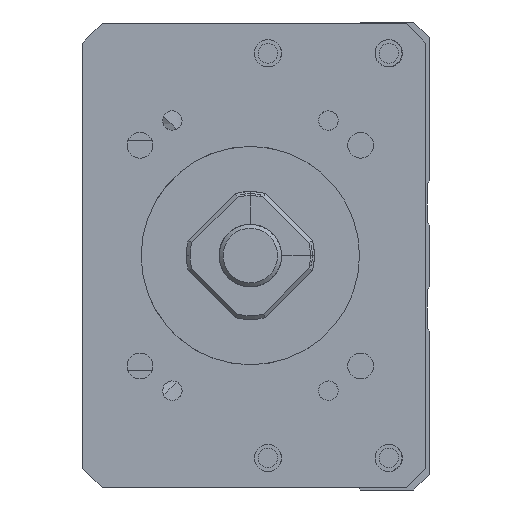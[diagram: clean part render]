
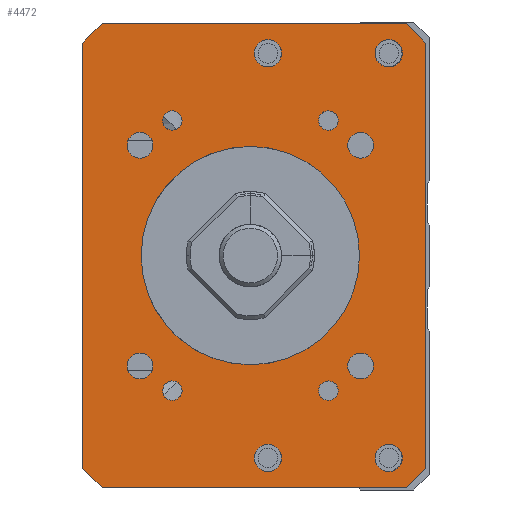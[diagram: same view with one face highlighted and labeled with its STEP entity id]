
A CAD part, left-side view. The second image highlights one B-rep face of the part: STEP entity #4472.
In plain terms, the highlighted planar face has unit normal (-1, 0, 0).
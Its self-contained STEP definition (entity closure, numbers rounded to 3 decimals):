
#3380=FACE_BOUND('',#5912,.T.);
#3381=FACE_BOUND('',#5913,.T.);
#3382=FACE_BOUND('',#5914,.T.);
#3383=FACE_BOUND('',#5915,.T.);
#3384=FACE_BOUND('',#5916,.T.);
#3385=FACE_BOUND('',#5917,.T.);
#3386=FACE_BOUND('',#5918,.T.);
#3387=FACE_BOUND('',#5919,.T.);
#3388=FACE_BOUND('',#5920,.T.);
#3389=FACE_BOUND('',#5921,.T.);
#3390=FACE_BOUND('',#5922,.T.);
#3391=FACE_BOUND('',#5923,.T.);
#3392=FACE_BOUND('',#5924,.T.);
#3393=FACE_BOUND('',#5925,.T.);
#3782=CIRCLE('',#13442,14.);
#3791=CIRCLE('',#13453,1.65);
#3792=CIRCLE('',#13454,1.65);
#3793=CIRCLE('',#13455,1.65);
#3794=CIRCLE('',#13456,1.65);
#3795=CIRCLE('',#13457,1.25);
#3796=CIRCLE('',#13458,1.75);
#3797=CIRCLE('',#13459,1.25);
#3798=CIRCLE('',#13460,1.75);
#3799=CIRCLE('',#13461,1.25);
#3800=CIRCLE('',#13462,1.75);
#3801=CIRCLE('',#13463,1.75);
#3802=CIRCLE('',#13464,1.25);
#4472=ADVANCED_FACE('',(#3380,#3381,#3382,#3383,#3384,#3385,#3386,#3387,
#3388,#3389,#3390,#3391,#3392,#3393),#5007,.F.);
#5007=PLANE('',#13465);
#5912=EDGE_LOOP('',(#7231));
#5913=EDGE_LOOP('',(#7232));
#5914=EDGE_LOOP('',(#7233));
#5915=EDGE_LOOP('',(#7234));
#5916=EDGE_LOOP('',(#7235));
#5917=EDGE_LOOP('',(#7236));
#5918=EDGE_LOOP('',(#7237));
#5919=EDGE_LOOP('',(#7238));
#5920=EDGE_LOOP('',(#7239));
#5921=EDGE_LOOP('',(#7240,#7241,#7242,#7243,#7244,#7245,#7246,#7247));
#5922=EDGE_LOOP('',(#7248));
#5923=EDGE_LOOP('',(#7249));
#5924=EDGE_LOOP('',(#7250));
#5925=EDGE_LOOP('',(#7251));
#7231=ORIENTED_EDGE('',*,*,#10584,.F.);
#7232=ORIENTED_EDGE('',*,*,#10585,.F.);
#7233=ORIENTED_EDGE('',*,*,#10586,.F.);
#7234=ORIENTED_EDGE('',*,*,#10587,.F.);
#7235=ORIENTED_EDGE('',*,*,#10588,.F.);
#7236=ORIENTED_EDGE('',*,*,#10589,.T.);
#7237=ORIENTED_EDGE('',*,*,#10590,.F.);
#7238=ORIENTED_EDGE('',*,*,#10591,.F.);
#7239=ORIENTED_EDGE('',*,*,#10592,.F.);
#7240=ORIENTED_EDGE('',*,*,#10581,.T.);
#7241=ORIENTED_EDGE('',*,*,#10593,.T.);
#7242=ORIENTED_EDGE('',*,*,#10594,.F.);
#7243=ORIENTED_EDGE('',*,*,#10595,.T.);
#7244=ORIENTED_EDGE('',*,*,#10596,.F.);
#7245=ORIENTED_EDGE('',*,*,#10597,.T.);
#7246=ORIENTED_EDGE('',*,*,#10598,.T.);
#7247=ORIENTED_EDGE('',*,*,#10599,.T.);
#7248=ORIENTED_EDGE('',*,*,#10600,.F.);
#7249=ORIENTED_EDGE('',*,*,#10601,.F.);
#7250=ORIENTED_EDGE('',*,*,#10602,.F.);
#7251=ORIENTED_EDGE('',*,*,#10561,.F.);
#9533=VERTEX_POINT('',#17678);
#9553=VERTEX_POINT('',#17738);
#9554=VERTEX_POINT('',#17740);
#9556=VERTEX_POINT('',#17746);
#9557=VERTEX_POINT('',#17748);
#9558=VERTEX_POINT('',#17750);
#9559=VERTEX_POINT('',#17752);
#9560=VERTEX_POINT('',#17754);
#9561=VERTEX_POINT('',#17756);
#9562=VERTEX_POINT('',#17758);
#9563=VERTEX_POINT('',#17760);
#9564=VERTEX_POINT('',#17762);
#9565=VERTEX_POINT('',#17764);
#9566=VERTEX_POINT('',#17766);
#9567=VERTEX_POINT('',#17768);
#9568=VERTEX_POINT('',#17770);
#9569=VERTEX_POINT('',#17772);
#9570=VERTEX_POINT('',#17774);
#9571=VERTEX_POINT('',#17777);
#9572=VERTEX_POINT('',#17779);
#9573=VERTEX_POINT('',#17781);
#10561=EDGE_CURVE('',#9533,#9533,#3782,.T.);
#10581=EDGE_CURVE('',#9554,#9553,#11761,.T.);
#10584=EDGE_CURVE('',#9556,#9556,#3791,.T.);
#10585=EDGE_CURVE('',#9557,#9557,#3792,.T.);
#10586=EDGE_CURVE('',#9558,#9558,#3793,.T.);
#10587=EDGE_CURVE('',#9559,#9559,#3794,.T.);
#10588=EDGE_CURVE('',#9560,#9560,#3795,.T.);
#10589=EDGE_CURVE('',#9561,#9561,#3796,.T.);
#10590=EDGE_CURVE('',#9562,#9562,#3797,.T.);
#10591=EDGE_CURVE('',#9563,#9563,#3798,.T.);
#10592=EDGE_CURVE('',#9564,#9564,#3799,.T.);
#10593=EDGE_CURVE('',#9553,#9565,#11763,.T.);
#10594=EDGE_CURVE('',#9566,#9565,#11764,.T.);
#10595=EDGE_CURVE('',#9566,#9567,#11765,.T.);
#10596=EDGE_CURVE('',#9568,#9567,#11766,.T.);
#10597=EDGE_CURVE('',#9568,#9569,#11767,.T.);
#10598=EDGE_CURVE('',#9569,#9570,#11768,.T.);
#10599=EDGE_CURVE('',#9570,#9554,#11769,.T.);
#10600=EDGE_CURVE('',#9571,#9571,#3800,.T.);
#10601=EDGE_CURVE('',#9572,#9572,#3801,.T.);
#10602=EDGE_CURVE('',#9573,#9573,#3802,.T.);
#11761=LINE('',#17739,#12536);
#11763=LINE('',#17763,#12538);
#11764=LINE('',#17765,#12539);
#11765=LINE('',#17767,#12540);
#11766=LINE('',#17769,#12541);
#11767=LINE('',#17771,#12542);
#11768=LINE('',#17773,#12543);
#11769=LINE('',#17775,#12544);
#12536=VECTOR('',#14833,1.);
#12538=VECTOR('',#14857,1.);
#12539=VECTOR('',#14858,1.);
#12540=VECTOR('',#14859,1.);
#12541=VECTOR('',#14860,1.);
#12542=VECTOR('',#14861,1.);
#12543=VECTOR('',#14862,1.);
#12544=VECTOR('',#14863,1.);
#13442=AXIS2_PLACEMENT_3D('',#17677,#14807,#14808);
#13453=AXIS2_PLACEMENT_3D('',#17745,#14839,#14840);
#13454=AXIS2_PLACEMENT_3D('',#17747,#14841,#14842);
#13455=AXIS2_PLACEMENT_3D('',#17749,#14843,#14844);
#13456=AXIS2_PLACEMENT_3D('',#17751,#14845,#14846);
#13457=AXIS2_PLACEMENT_3D('',#17753,#14847,#14848);
#13458=AXIS2_PLACEMENT_3D('',#17755,#14849,#14850);
#13459=AXIS2_PLACEMENT_3D('',#17757,#14851,#14852);
#13460=AXIS2_PLACEMENT_3D('',#17759,#14853,#14854);
#13461=AXIS2_PLACEMENT_3D('',#17761,#14855,#14856);
#13462=AXIS2_PLACEMENT_3D('',#17776,#14864,#14865);
#13463=AXIS2_PLACEMENT_3D('',#17778,#14866,#14867);
#13464=AXIS2_PLACEMENT_3D('',#17780,#14868,#14869);
#13465=AXIS2_PLACEMENT_3D('',#17782,#14870,#14871);
#14807=DIRECTION('',(-1.,0.,0.));
#14808=DIRECTION('',(0.,1.,0.));
#14833=DIRECTION('',(0.,0.,-1.));
#14839=DIRECTION('',(-1.,0.,0.));
#14840=DIRECTION('',(0.,0.,1.));
#14841=DIRECTION('',(-1.,0.,0.));
#14842=DIRECTION('',(0.,0.,1.));
#14843=DIRECTION('',(-1.,0.,0.));
#14844=DIRECTION('',(0.,0.,1.));
#14845=DIRECTION('',(-1.,0.,0.));
#14846=DIRECTION('',(0.,0.,1.));
#14847=DIRECTION('',(-1.,0.,0.));
#14848=DIRECTION('',(0.,1.,0.));
#14849=DIRECTION('',(1.,0.,0.));
#14850=DIRECTION('',(0.,0.,1.));
#14851=DIRECTION('',(-1.,0.,0.));
#14852=DIRECTION('',(0.,1.,0.));
#14853=DIRECTION('',(-1.,0.,0.));
#14854=DIRECTION('',(0.,0.,1.));
#14855=DIRECTION('',(-1.,0.,0.));
#14856=DIRECTION('',(0.,1.,0.));
#14857=DIRECTION('',(0.,-0.707,-0.707));
#14858=DIRECTION('',(0.,1.,0.));
#14859=DIRECTION('',(0.,-0.707,0.707));
#14860=DIRECTION('',(0.,0.,-1.));
#14861=DIRECTION('',(0.,0.707,0.707));
#14862=DIRECTION('',(0.,1.,0.));
#14863=DIRECTION('',(0.,0.707,-0.707));
#14864=DIRECTION('',(-1.,0.,0.));
#14865=DIRECTION('',(0.,0.,1.));
#14866=DIRECTION('',(-1.,0.,0.));
#14867=DIRECTION('',(0.,0.,1.));
#14868=DIRECTION('',(-1.,0.,0.));
#14869=DIRECTION('',(0.,1.,0.));
#14870=DIRECTION('',(1.,0.,0.));
#14871=DIRECTION('',(0.,1.,0.));
#17677=CARTESIAN_POINT('',(-211.,0.,-100.));
#17678=CARTESIAN_POINT('',(-211.,14.,-100.));
#17738=CARTESIAN_POINT('',(-211.,21.499,-127.25));
#17739=CARTESIAN_POINT('',(-211.,21.499,-70.25));
#17740=CARTESIAN_POINT('',(-211.,21.499,-72.75));
#17745=CARTESIAN_POINT('',(-211.,14.142,-85.858));
#17746=CARTESIAN_POINT('',(-211.,14.142,-84.208));
#17747=CARTESIAN_POINT('',(-211.,-14.142,-85.858));
#17748=CARTESIAN_POINT('',(-211.,-14.142,-84.208));
#17749=CARTESIAN_POINT('',(-211.,14.142,-114.142));
#17750=CARTESIAN_POINT('',(-211.,14.142,-112.492));
#17751=CARTESIAN_POINT('',(-211.,-14.142,-114.142));
#17752=CARTESIAN_POINT('',(-211.,-14.142,-112.492));
#17753=CARTESIAN_POINT('',(-211.,-10.,-117.321));
#17754=CARTESIAN_POINT('',(-211.,-8.75,-117.321));
#17755=CARTESIAN_POINT('',(-211.,-2.25,-125.936));
#17756=CARTESIAN_POINT('',(-211.,-2.25,-124.186));
#17757=CARTESIAN_POINT('',(-211.,10.,-82.679));
#17758=CARTESIAN_POINT('',(-211.,11.25,-82.679));
#17759=CARTESIAN_POINT('',(-211.,-2.25,-74.064));
#17760=CARTESIAN_POINT('',(-211.,-2.25,-72.314));
#17761=CARTESIAN_POINT('',(-211.,10.,-117.321));
#17762=CARTESIAN_POINT('',(-211.,11.25,-117.321));
#17763=CARTESIAN_POINT('',(-211.,18.999,-129.75));
#17764=CARTESIAN_POINT('',(-211.,18.999,-129.75));
#17765=CARTESIAN_POINT('',(-211.,-22.501,-129.75));
#17766=CARTESIAN_POINT('',(-211.,-20.001,-129.75));
#17767=CARTESIAN_POINT('',(-211.,-22.501,-127.25));
#17768=CARTESIAN_POINT('',(-211.,-22.501,-127.25));
#17769=CARTESIAN_POINT('',(-211.,-22.501,-70.25));
#17770=CARTESIAN_POINT('',(-211.,-22.501,-72.75));
#17771=CARTESIAN_POINT('',(-211.,-22.501,-72.75));
#17772=CARTESIAN_POINT('',(-211.,-20.001,-70.25));
#17773=CARTESIAN_POINT('',(-211.,-22.501,-70.25));
#17774=CARTESIAN_POINT('',(-211.,18.999,-70.25));
#17775=CARTESIAN_POINT('',(-211.,18.999,-70.25));
#17776=CARTESIAN_POINT('',(-211.,-17.75,-74.064));
#17777=CARTESIAN_POINT('',(-211.,-17.75,-72.314));
#17778=CARTESIAN_POINT('',(-211.,-17.75,-125.936));
#17779=CARTESIAN_POINT('',(-211.,-17.75,-124.186));
#17780=CARTESIAN_POINT('',(-211.,-10.,-82.679));
#17781=CARTESIAN_POINT('',(-211.,-8.75,-82.679));
#17782=CARTESIAN_POINT('',(-211.,-22.501,-70.25));
